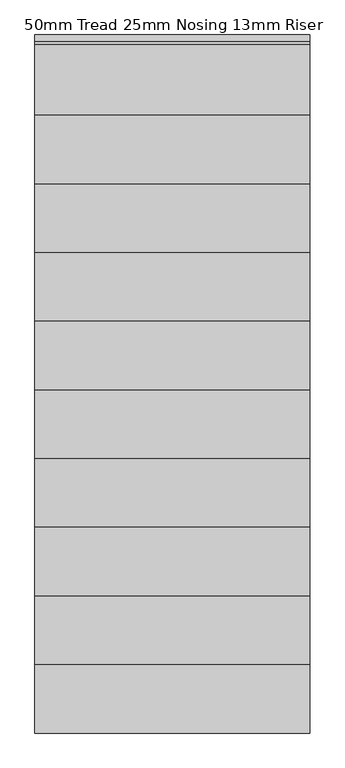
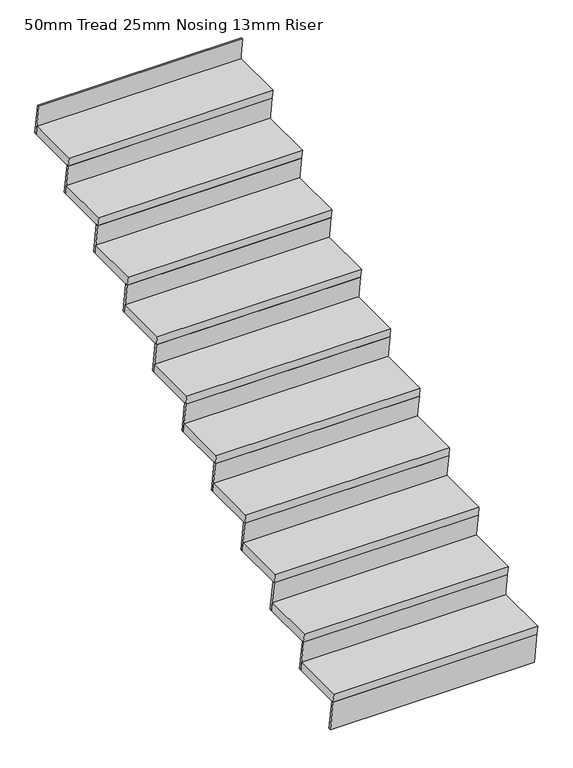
"""IFC4 building model written with IfcOpenShell, lengths in millimetres: stair flight geometry, 50mm Tread 25mm Nosing 13mm Riser."""

from ifc_helpers import new_model, si_unit, frame, origin, place, context, project, spatial, polyline, outline, extrude, source, transform, mapped, element, save


def stair_flight_50mm_tread_25mm_nosing_13mm_riser_a435f8cb(model_context):
    return source(origin(), model_context, "Body", "SweptSolid", [
        extrude(outline(polyline([(-9423.8611817, 2072.7272727), (-9123.8611817, 2072.7272727), (-9116.6243396, 2022.7272727), (-9416.6243396, 2022.7272727), (-9423.8611817, 2072.7272727)])), frame((2568.6567657, 0.0, 0.0), z_axis=(1.0, 0.0, 0.0), x_axis=(0.0, 1.0, 0.0)), (0.0, 0.0, 1.0), 1100.0),
        extrude(outline(polyline([(-9416.6243396, 2022.7272727), (-9403.9940885, 2022.7272727), (-9378.9940885, 1850.0), (-9391.6243396, 1850.0), (-9416.6243396, 2022.7272727)])), frame((2568.6567657, 0.0, 0.0), z_axis=(1.0, 0.0, 0.0), x_axis=(0.0, 1.0, 0.0)), (0.0, 0.0, 1.0), 1100.0),
        extrude(outline(polyline([(-9141.6243396, 2195.4545455), (-9128.9940885, 2195.4545455), (-9103.9940885, 2022.7272727), (-9116.6243396, 2022.7272727), (-9141.6243396, 2195.4545455)])), frame((2568.6567657, 0.0, 0.0), z_axis=(1.0, 0.0, 0.0), x_axis=(0.0, 1.0, 0.0)), (0.0, 0.0, 1.0), 1100.0),
        extrude(outline(polyline([(-9148.8611817, 2245.4545455), (-8848.8611817, 2245.4545455), (-8841.6243396, 2195.4545455), (-9141.6243396, 2195.4545455), (-9148.8611817, 2245.4545455)])), frame((2568.6567657, 0.0, 0.0), z_axis=(1.0, 0.0, 0.0), x_axis=(0.0, 1.0, 0.0)), (0.0, 0.0, 1.0), 1100.0),
        extrude(outline(polyline([(-8866.6243396, 2368.1818182), (-8853.9940885, 2368.1818182), (-8828.9940885, 2195.4545455), (-8841.6243396, 2195.4545455), (-8866.6243396, 2368.1818182)])), frame((2568.6567657, 0.0, 0.0), z_axis=(1.0, 0.0, 0.0), x_axis=(0.0, 1.0, 0.0)), (0.0, 0.0, 1.0), 1100.0),
        extrude(outline(polyline([(-8873.8611817, 2418.1818182), (-8573.8611817, 2418.1818182), (-8566.6243396, 2368.1818182), (-8866.6243396, 2368.1818182), (-8873.8611817, 2418.1818182)])), frame((2568.6567657, 0.0, 0.0), z_axis=(1.0, 0.0, 0.0), x_axis=(0.0, 1.0, 0.0)), (0.0, 0.0, 1.0), 1100.0),
        extrude(outline(polyline([(-8591.6243396, 2540.9090909), (-8578.9940885, 2540.9090909), (-8553.9940885, 2368.1818182), (-8566.6243396, 2368.1818182), (-8591.6243396, 2540.9090909)])), frame((2568.6567657, 0.0, 0.0), z_axis=(1.0, 0.0, 0.0), x_axis=(0.0, 1.0, 0.0)), (0.0, 0.0, 1.0), 1100.0),
        extrude(outline(polyline([(-8598.8611817, 2590.9090909), (-8298.8611817, 2590.9090909), (-8291.6243396, 2540.9090909), (-8591.6243396, 2540.9090909), (-8598.8611817, 2590.9090909)])), frame((2568.6567657, 0.0, 0.0), z_axis=(1.0, 0.0, 0.0), x_axis=(0.0, 1.0, 0.0)), (0.0, 0.0, 1.0), 1100.0),
        extrude(outline(polyline([(-8316.6243396, 2713.6363636), (-8303.9940885, 2713.6363636), (-8278.9940885, 2540.9090909), (-8291.6243396, 2540.9090909), (-8316.6243396, 2713.6363636)])), frame((2568.6567657, 0.0, 0.0), z_axis=(1.0, 0.0, 0.0), x_axis=(0.0, 1.0, 0.0)), (0.0, 0.0, 1.0), 1100.0),
        extrude(outline(polyline([(-8323.8611817, 2763.6363636), (-8023.8611817, 2763.6363636), (-8016.6243396, 2713.6363636), (-8316.6243396, 2713.6363636), (-8323.8611817, 2763.6363636)])), frame((2568.6567657, 0.0, 0.0), z_axis=(1.0, 0.0, 0.0), x_axis=(0.0, 1.0, 0.0)), (0.0, 0.0, 1.0), 1100.0),
        extrude(outline(polyline([(-8041.6243396, 2886.3636364), (-8028.9940885, 2886.3636364), (-8003.9940885, 2713.6363636), (-8016.6243396, 2713.6363636), (-8041.6243396, 2886.3636364)])), frame((2568.6567657, 0.0, 0.0), z_axis=(1.0, 0.0, 0.0), x_axis=(0.0, 1.0, 0.0)), (0.0, 0.0, 1.0), 1100.0),
        extrude(outline(polyline([(-8048.8611817, 2936.3636364), (-7748.8611817, 2936.3636364), (-7741.6243396, 2886.3636364), (-8041.6243396, 2886.3636364), (-8048.8611817, 2936.3636364)])), frame((2568.6567657, 0.0, 0.0), z_axis=(1.0, 0.0, 0.0), x_axis=(0.0, 1.0, 0.0)), (0.0, 0.0, 1.0), 1100.0),
        extrude(outline(polyline([(-7766.6243396, 3059.0909091), (-7753.9940885, 3059.0909091), (-7728.9940885, 2886.3636364), (-7741.6243396, 2886.3636364), (-7766.6243396, 3059.0909091)])), frame((2568.6567657, 0.0, 0.0), z_axis=(1.0, 0.0, 0.0), x_axis=(0.0, 1.0, 0.0)), (0.0, 0.0, 1.0), 1100.0),
        extrude(outline(polyline([(-7773.8611817, 3109.0909091), (-7473.8611817, 3109.0909091), (-7466.6243396, 3059.0909091), (-7766.6243396, 3059.0909091), (-7773.8611817, 3109.0909091)])), frame((2568.6567657, 0.0, 0.0), z_axis=(1.0, 0.0, 0.0), x_axis=(0.0, 1.0, 0.0)), (0.0, 0.0, 1.0), 1100.0),
        extrude(outline(polyline([(-7491.6243396, 3231.8181818), (-7478.9940885, 3231.8181818), (-7453.9940885, 3059.0909091), (-7466.6243396, 3059.0909091), (-7491.6243396, 3231.8181818)])), frame((2568.6567657, 0.0, 0.0), z_axis=(1.0, 0.0, 0.0), x_axis=(0.0, 1.0, 0.0)), (0.0, 0.0, 1.0), 1100.0),
        extrude(outline(polyline([(-7498.8611817, 3281.8181818), (-7198.8611817, 3281.8181818), (-7191.6243396, 3231.8181818), (-7491.6243396, 3231.8181818), (-7498.8611817, 3281.8181818)])), frame((2568.6567657, 0.0, 0.0), z_axis=(1.0, 0.0, 0.0), x_axis=(0.0, 1.0, 0.0)), (0.0, 0.0, 1.0), 1100.0),
        extrude(outline(polyline([(-7216.6243396, 3404.5454545), (-7203.9940885, 3404.5454545), (-7178.9940885, 3231.8181818), (-7191.6243396, 3231.8181818), (-7216.6243396, 3404.5454545)])), frame((2568.6567657, 0.0, 0.0), z_axis=(1.0, 0.0, 0.0), x_axis=(0.0, 1.0, 0.0)), (0.0, 0.0, 1.0), 1100.0),
        extrude(outline(polyline([(-7223.8611817, 3454.5454545), (-6923.8611817, 3454.5454545), (-6916.6243396, 3404.5454545), (-7216.6243396, 3404.5454545), (-7223.8611817, 3454.5454545)])), frame((2568.6567657, 0.0, 0.0), z_axis=(1.0, 0.0, 0.0), x_axis=(0.0, 1.0, 0.0)), (0.0, 0.0, 1.0), 1100.0),
        extrude(outline(polyline([(-6941.6243396, 3577.2727273), (-6928.9940885, 3577.2727273), (-6903.9940885, 3404.5454545), (-6916.6243396, 3404.5454545), (-6941.6243396, 3577.2727273)])), frame((2568.6567657, 0.0, 0.0), z_axis=(1.0, 0.0, 0.0), x_axis=(0.0, 1.0, 0.0)), (0.0, 0.0, 1.0), 1100.0),
        extrude(outline(polyline([(-6666.6243396, 3750.0), (-6653.9940885, 3750.0), (-6628.9940885, 3577.2727273), (-6641.6243396, 3577.2727273), (-6666.6243396, 3750.0)])), frame((2568.6567657, 0.0, 0.0), z_axis=(1.0, 0.0, 0.0), x_axis=(0.0, 1.0, 0.0)), (0.0, 0.0, 1.0), 1100.0),
        extrude(outline(polyline([(-6948.8611817, 3627.2727273), (-6648.8611817, 3627.2727273), (-6641.6243396, 3577.2727273), (-6941.6243396, 3577.2727273), (-6948.8611817, 3627.2727273)])), frame((2568.6567657, 0.0, 0.0), z_axis=(1.0, 0.0, 0.0), x_axis=(0.0, 1.0, 0.0)), (0.0, 0.0, 1.0), 1100.0),
    ])


if __name__ == "__main__":
    model = new_model("IFC4")
    model_context = context("Model", 3, world=origin())
    ifc_project = project(units=[si_unit("LENGTHUNIT", "METRE", prefix="MILLI")], contexts=[model_context])
    site = spatial("IfcSite", under=ifc_project)
    building = spatial("IfcBuilding", under=site)
    placement = place(None, origin())
    stair_flight_50mm_tread_25mm_nosing_13mm_riser_shape = stair_flight_50mm_tread_25mm_nosing_13mm_riser_a435f8cb(model_context)
    element("IfcStairFlight", 1, ObjectType="50mm Tread 25mm Nosing 13mm Riser", at=placement, inside=building, context=model_context, shape_type="MappedRepresentation", body=[
        mapped(stair_flight_50mm_tread_25mm_nosing_13mm_riser_shape, transform((0.0, 0.0, 0.0), x_axis=(1.0, 0.0, 0.0), y_axis=(0.0, 1.0, 0.0), z_axis=(0.0, 0.0, 1.0))),
    ])
    save(model, "model.ifc")
